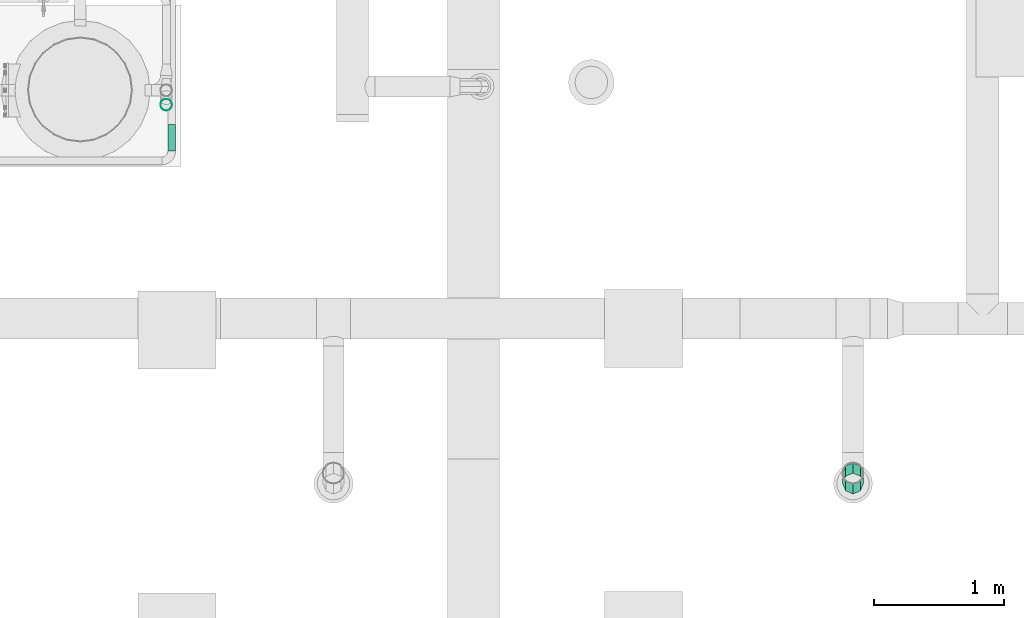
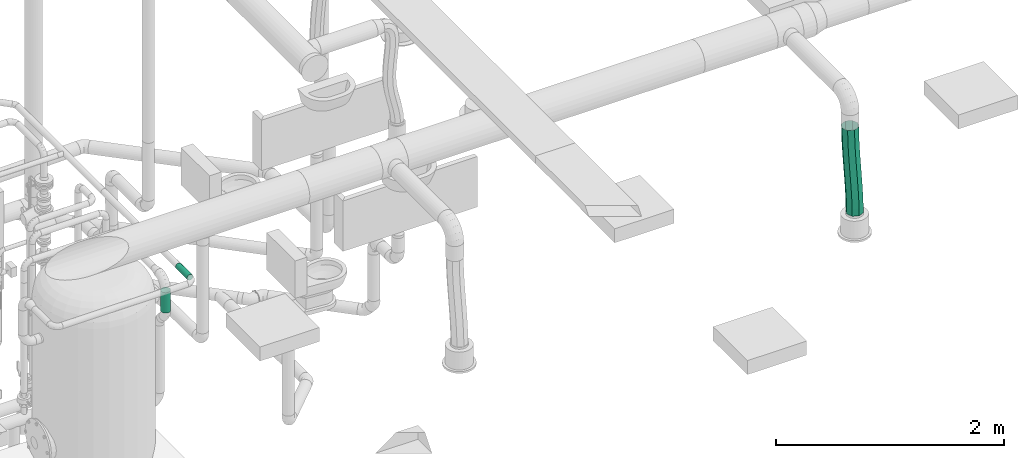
# One storey, part 261 of 374: 3 flow segments.
"""IFC2X3 building model written with IfcOpenShell, lengths in metres."""

from ifc_helpers import new_model, si_unit, direction, origin, place, context, subcontext, project, spatial, open_shell, surface_model, source, transform, mapped, element, save


model = new_model("IFC2X3")

# Units and contexts
model_context = context("Model", 3, precision=1e-05, world=origin(), true_north=direction((-0.4480736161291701, 0.8939966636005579)))
body_context = subcontext(model_context, "Body", "Model", "MODEL_VIEW")
ifc_project = project(units=[si_unit("LENGTHUNIT", "METRE"), si_unit("AREAUNIT", "SQUARE_METRE"), si_unit("VOLUMEUNIT", "CUBIC_METRE"), si_unit("PLANEANGLEUNIT", "RADIAN"), si_unit("THERMODYNAMICTEMPERATUREUNIT", "KELVIN"), si_unit("MASSUNIT", "GRAM", prefix="KILO"), si_unit("TIMEUNIT", "SECOND")], contexts=[model_context])

# Site, building, storey
site_placement = place(None, origin())
site = spatial("IfcSite", under=ifc_project, at=site_placement, Name="Site 1", CompositionType="ELEMENT")
building_placement = place(site_placement, origin())
building = spatial("IfcBuilding", under=site, at=building_placement, Name="Undefined", CompositionType="ELEMENT")
storey_placement = place(building_placement, origin())
storey = spatial("IfcBuildingStorey", under=building, at=storey_placement, Name="Rez de chauss\x8ee", CompositionType="ELEMENT", Elevation=0.0)

# Flow segments
shared_shape_1 = source(origin(), body_context, "Body", "SurfaceModel", [
    surface_model("IfcFaceBasedSurfaceModel", [(0.09591138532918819, -3.552713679e-15, 0.0), (0.057778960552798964, 0.04790565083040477, 0.0), (0.0, 0.0, 0.0), (0.0399085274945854, -0.04643643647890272, -1.0803251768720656e-06), (-0.05576709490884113, -0.049661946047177, -0.0010921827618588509), (-0.01440323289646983, -0.09480686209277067, -0.0010661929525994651), (-0.10982705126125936, -0.10061373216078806, -0.003047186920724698), (-0.06736211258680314, -0.14472447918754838, -0.0029825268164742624), (-0.1625398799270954, -0.1524448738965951, -0.0056388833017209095), (-0.11930632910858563, -0.19580249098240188, -0.0055372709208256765), (-0.21426131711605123, -0.20475370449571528, -0.00864508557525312), (-0.17057409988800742, -0.24765410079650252, -0.00851761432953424), (-0.26534080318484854, -0.2571453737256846, -0.011847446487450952), (-0.22150364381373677, -0.2998925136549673, -0.01171074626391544), (-0.3161204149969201, -0.30923055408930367, -0.015031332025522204), (-0.2724331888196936, -0.35213094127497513, -0.01490386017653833), (-0.36693452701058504, -0.36062498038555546, -0.017985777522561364), (-0.32370096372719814, -0.40398258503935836, -0.01788416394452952), (-0.41811014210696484, -0.4109499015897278, -0.020503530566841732), (-0.37564519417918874, -0.45506063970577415, -0.020438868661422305), (-0.4699679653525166, -0.4598333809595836, -0.02238117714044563), (-0.42860410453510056, -0.5049782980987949, -0.0223551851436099), (-0.5228244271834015, -0.5069122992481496, -0.023419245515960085), (-0.4829159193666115, -0.5533487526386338, -0.02342032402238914), (-0.5770512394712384, -0.5518795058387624, -0.0234214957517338), (-0.5389188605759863, -0.5997851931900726, -0.02342149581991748), (0.030535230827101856, 0.08155715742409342, -0.04329420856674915), (-0.027979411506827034, 0.033042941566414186, -0.04329376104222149), (-0.0843493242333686, -0.017153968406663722, -0.044397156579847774), (-0.13886536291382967, -0.06853412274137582, -0.04636817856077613), (-0.19189656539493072, -0.12067722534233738, -0.0489751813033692), (-0.2438059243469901, -0.1731754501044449, -0.05199209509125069), (-0.29494752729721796, -0.22563060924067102, -0.05519827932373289), (-0.3456650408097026, -0.27765231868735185, -0.05837834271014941), (-0.3962912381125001, -0.32885735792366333, -0.061322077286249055), (-0.4471484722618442, -0.3788703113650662, -0.06382452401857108), (-0.4985501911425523, -0.4273254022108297, -0.06568615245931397), (-0.5508037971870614, -0.4738693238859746, -0.06671300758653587), (-0.6042948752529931, -0.5182279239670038, -0.06671570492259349), (0.030139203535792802, 0.08124192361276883, -0.10452146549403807), (-0.02763974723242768, 0.033336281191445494, -0.10452146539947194), (-0.08340683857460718, -0.016325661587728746, -0.10561364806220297), (-0.13746679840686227, -0.06727745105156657, -0.1075686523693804), (-0.19017963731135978, -0.11910860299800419, -0.11016034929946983), (-0.2419010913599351, -0.17141745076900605, -0.11316655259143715), (-0.2929805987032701, -0.22380914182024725, -0.11636891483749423), (-0.34376022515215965, -0.2758943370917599, -0.11955280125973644), (-0.3945743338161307, -0.32728876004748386, -0.12250724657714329), (-0.4457499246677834, -0.37761365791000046, -0.12502499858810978), (-0.4976077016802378, -0.42649709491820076, -0.12690264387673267), (-0.5504640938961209, -0.4735759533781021, -0.12794071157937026), (-0.6046908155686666, -0.5185430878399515, -0.1279429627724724), (0.05682286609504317, 0.04714460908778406, -0.1478156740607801), (0.0008200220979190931, 0.0007081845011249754, -0.14781675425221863), (-0.053491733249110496, -0.04766223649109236, -0.14888186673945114), (-0.1064506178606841, -0.097579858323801, -0.15079820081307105), (-0.15839484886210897, -0.14865788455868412, -0.1533529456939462), (-0.20966264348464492, -0.20050951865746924, -0.1563332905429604), (-0.2605922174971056, -0.25274796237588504, -0.15952642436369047), (-0.3115217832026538, -0.3049864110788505, -0.16271953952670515), (-0.3627895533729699, -0.35683805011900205, -0.165699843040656), (-0.41473374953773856, -0.4079160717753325, -0.16825454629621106), (-0.46769259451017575, -0.45783367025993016, -0.1701708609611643), (-0.5220043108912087, -0.5062040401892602, -0.17123599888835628), (-0.5780071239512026, -0.5526403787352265, -0.17123717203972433), (0.09495529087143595, -0.0007610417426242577, -0.1478156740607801), (0.04072854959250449, -0.045728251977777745, -0.1478178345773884), (-0.012127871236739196, -0.09280715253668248, -0.14885587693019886), (-0.06398567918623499, -0.14169060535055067, -0.15073354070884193), (-0.1151612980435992, -0.19201550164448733, -0.15325133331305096), (-0.16597542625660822, -0.24340991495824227, -0.15620581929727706), (-0.21675505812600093, -0.2954951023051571, -0.15938972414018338), (-0.26783455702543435, -0.3478867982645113, -0.1625920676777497), (-0.3195559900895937, -0.4001956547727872, -0.16559822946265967), (-0.3722688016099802, -0.4520268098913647, -0.16818988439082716), (-0.4263287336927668, -0.5029785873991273, -0.1701448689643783), (-0.48209580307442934, -0.5526404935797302, -0.17123707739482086), (-0.5398747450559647, -0.6005460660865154, -0.17123717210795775), (0.12219902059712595, -0.03441254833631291, -0.10452146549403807), (0.06870796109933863, -0.07877119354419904, -0.1045240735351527), (0.01645435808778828, -0.1253151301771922, -0.10555090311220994), (-0.03494736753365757, -0.17377021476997, -0.10741254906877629), (-0.08580461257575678, -0.22378315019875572, -0.10991503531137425), (-0.13643081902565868, -0.2749881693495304, -0.11285880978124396), (-0.18714833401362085, -0.32700986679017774, -0.11603889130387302), (-0.2382899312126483, -0.3794650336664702, -0.11924505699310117), (-0.2901992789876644, -0.4319632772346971, -0.12226192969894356), (-0.3432304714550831, -0.48410640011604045, -0.12486889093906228), (-0.39774650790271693, -0.5354865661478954, -0.12683989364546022), (-0.4541164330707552, -0.5856834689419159, -0.12794331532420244), (-0.5126311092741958, -0.6341976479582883, -0.12794296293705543), (0.12259504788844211, -0.03409731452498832, -0.04329420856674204), (0.06836829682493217, -0.07906453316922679, -0.04329636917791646), (0.015511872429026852, -0.12614343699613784, -0.044334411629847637), (-0.03634593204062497, -0.1750268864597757, -0.046212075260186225), (-0.08752154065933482, -0.22535177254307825, -0.04872986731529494), (-0.13833565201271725, -0.27674616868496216, -0.05168435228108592), (-0.18911526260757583, -0.32883133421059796, -0.05486825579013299), (-0.24019474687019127, -0.3812230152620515, -0.058070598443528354), (-0.29191618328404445, -0.4335318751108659, -0.06107676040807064), (-0.34462901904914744, -0.4853630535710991, -0.0636684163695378), (-0.3986889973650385, -0.5363148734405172, -0.06562340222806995), (-0.4544561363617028, -0.5859768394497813, -0.06671561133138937), (-0.5122351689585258, -0.633882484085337, -0.06671570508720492)], [open_shell([[[0, 1, 2]], [[2, 3, 0]], [[3, 2, 4]], [[4, 5, 3]], [[5, 4, 6]], [[6, 7, 5]], [[7, 6, 8]], [[8, 9, 7]], [[9, 8, 10]], [[10, 11, 9]], [[11, 10, 12]], [[12, 13, 11]], [[13, 12, 14]], [[14, 15, 13]], [[15, 14, 16]], [[16, 17, 15]], [[17, 16, 18]], [[18, 19, 17]], [[19, 18, 20]], [[20, 21, 19]], [[21, 20, 22]], [[22, 23, 21]], [[23, 22, 24]], [[24, 25, 23]], [[1, 26, 27]], [[27, 2, 1]], [[2, 27, 28]], [[28, 4, 2]], [[4, 28, 29]], [[29, 6, 4]], [[6, 29, 30]], [[30, 8, 6]], [[8, 30, 31]], [[31, 10, 8]], [[10, 31, 32]], [[32, 12, 10]], [[12, 32, 33]], [[33, 14, 12]], [[14, 33, 34]], [[34, 16, 14]], [[16, 34, 35]], [[35, 18, 16]], [[18, 35, 36]], [[36, 20, 18]], [[20, 36, 37]], [[37, 22, 20]], [[22, 37, 38]], [[38, 24, 22]], [[26, 39, 40]], [[40, 27, 26]], [[27, 40, 41]], [[41, 28, 27]], [[28, 41, 42]], [[42, 29, 28]], [[29, 42, 43]], [[43, 30, 29]], [[30, 43, 44]], [[44, 31, 30]], [[31, 44, 45]], [[45, 32, 31]], [[32, 45, 46]], [[46, 33, 32]], [[33, 46, 47]], [[47, 34, 33]], [[34, 47, 48]], [[48, 35, 34]], [[35, 48, 49]], [[49, 36, 35]], [[36, 49, 50]], [[50, 37, 36]], [[37, 50, 51]], [[51, 38, 37]], [[39, 52, 53]], [[53, 40, 39]], [[40, 53, 54]], [[54, 41, 40]], [[41, 54, 55]], [[55, 42, 41]], [[42, 55, 56]], [[56, 43, 42]], [[43, 56, 57]], [[57, 44, 43]], [[44, 57, 58]], [[58, 45, 44]], [[45, 58, 59]], [[59, 46, 45]], [[46, 59, 60]], [[60, 47, 46]], [[47, 60, 61]], [[61, 48, 47]], [[48, 61, 62]], [[62, 49, 48]], [[49, 62, 63]], [[63, 50, 49]], [[50, 63, 64]], [[64, 51, 50]], [[52, 65, 66]], [[66, 53, 52]], [[53, 66, 67]], [[67, 54, 53]], [[54, 67, 68]], [[68, 55, 54]], [[55, 68, 69]], [[69, 56, 55]], [[56, 69, 70]], [[70, 57, 56]], [[57, 70, 71]], [[71, 58, 57]], [[58, 71, 72]], [[72, 59, 58]], [[59, 72, 73]], [[73, 60, 59]], [[60, 73, 74]], [[74, 61, 60]], [[61, 74, 75]], [[75, 62, 61]], [[62, 75, 76]], [[76, 63, 62]], [[63, 76, 77]], [[77, 64, 63]], [[65, 78, 79]], [[79, 66, 65]], [[66, 79, 80]], [[80, 67, 66]], [[67, 80, 81]], [[81, 68, 67]], [[68, 81, 82]], [[82, 69, 68]], [[69, 82, 83]], [[83, 70, 69]], [[70, 83, 84]], [[84, 71, 70]], [[71, 84, 85]], [[85, 72, 71]], [[72, 85, 86]], [[86, 73, 72]], [[73, 86, 87]], [[87, 74, 73]], [[74, 87, 88]], [[88, 75, 74]], [[75, 88, 89]], [[89, 76, 75]], [[76, 89, 90]], [[90, 77, 76]], [[78, 91, 92]], [[92, 79, 78]], [[79, 92, 93]], [[93, 80, 79]], [[80, 93, 94]], [[94, 81, 80]], [[81, 94, 95]], [[95, 82, 81]], [[82, 95, 96]], [[96, 83, 82]], [[83, 96, 97]], [[97, 84, 83]], [[84, 97, 98]], [[98, 85, 84]], [[85, 98, 99]], [[99, 86, 85]], [[86, 99, 100]], [[100, 87, 86]], [[87, 100, 101]], [[101, 88, 87]], [[88, 101, 102]], [[102, 89, 88]], [[89, 102, 103]], [[103, 90, 89]], [[91, 0, 3]], [[3, 92, 91]], [[92, 3, 5]], [[5, 93, 92]], [[93, 5, 7]], [[7, 94, 93]], [[94, 7, 9]], [[9, 95, 94]], [[95, 9, 11]], [[11, 96, 95]], [[96, 11, 13]], [[13, 97, 96]], [[97, 13, 15]], [[15, 98, 97]], [[98, 15, 17]], [[17, 99, 98]], [[99, 17, 19]], [[19, 100, 99]], [[100, 19, 21]], [[21, 101, 100]], [[101, 21, 23]], [[23, 102, 101]], [[102, 23, 25]], [[25, 103, 102]]])]),
])
flow_segment_1_placement = place(storey_placement, origin())
element("IfcFlowSegment", 1, at=flow_segment_1_placement, inside=storey, Name="Tube flexible", ObjectType="Tube flexible", context=body_context, shape_type="MappedRepresentation", body=[
    mapped(shared_shape_1, transform((60.23343534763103, 7.089946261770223, 3.404961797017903), x_axis=(-0.2443032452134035, -0.5728986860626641, 0.782370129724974), y_axis=(0.29465380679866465, 0.7248106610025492, 0.6227588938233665), z_axis=(-0.9238479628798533, 0.3826703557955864, -0.00826681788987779))),
])
shared_shape_2 = source(origin(), body_context, "Body", "SurfaceModel", [
    surface_model("IfcFaceBasedSurfaceModel", [(0.0, 0.011603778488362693, 2.22044605e-16), (0.0, 0.0, 0.0), (0.21824538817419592, -1.776356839e-15, 7.105427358e-15), (0.21824538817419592, 0.011603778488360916, 0.0), (0.0, -0.01120838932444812, -0.003003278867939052), (0.21824538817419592, -0.011208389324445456, -0.0030032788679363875), (0.0, -0.021257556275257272, -0.008805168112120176), (0.21824538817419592, -0.021257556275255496, -0.008805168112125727), (0.0, -0.029462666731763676, -0.017010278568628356), (0.21824538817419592, -0.029462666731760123, -0.017010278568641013), (0.0, -0.035264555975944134, -0.02705944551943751), (0.21824538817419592, -0.035264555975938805, -0.02705944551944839), (0.0, -0.03826783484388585, -0.038267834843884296), (0.21824538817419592, -0.038267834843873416, -0.038267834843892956), (0.0, -0.038267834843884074, -0.04987161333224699), (0.21824538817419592, -0.03826783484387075, -0.04987161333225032), (0.0, -0.03526455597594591, -0.06108000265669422), (0.21824538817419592, -0.03526455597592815, -0.0610800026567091), (0.0, -0.029462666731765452, -0.07112916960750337), (0.21824538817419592, -0.029462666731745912, -0.07112916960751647), (0.0, -0.021257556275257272, -0.07933428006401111), (0.21824538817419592, -0.02125755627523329, -0.07933428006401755), (0.0, -0.011208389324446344, -0.08513616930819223), (0.21824538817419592, -0.01120838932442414, -0.08513616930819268), (0.0, 0.0, -0.08813944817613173), (0.21824538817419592, 2.4868995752e-14, -0.08813944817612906), (0.0, 0.011603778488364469, -0.08813944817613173), (0.21824538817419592, 0.01160377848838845, -0.08813944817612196), (0.0, 0.022812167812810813, -0.08513616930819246), (0.21824538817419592, 0.022812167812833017, -0.08513616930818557), (0.0, 0.03286133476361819, -0.07933428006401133), (0.21824538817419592, 0.03286133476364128, -0.07933428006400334), (0.0, 0.04106644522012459, -0.07112916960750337), (0.21824538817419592, 0.041066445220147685, -0.07112916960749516), (0.0, 0.0468683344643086, -0.06108000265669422), (0.21824538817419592, 0.04686833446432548, -0.06108000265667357), (0.0, 0.04987161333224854, -0.04987161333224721), (0.21824538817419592, 0.04987161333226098, -0.049871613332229), (0.0, 0.04987161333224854, -0.03826783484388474), (0.21824538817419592, 0.049871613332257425, -0.03826783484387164), (0.0, 0.04686833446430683, -0.02705944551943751), (0.21824538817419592, 0.04686833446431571, -0.027059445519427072), (0.0, 0.04106644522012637, -0.017010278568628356), (0.21824538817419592, 0.0410664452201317, -0.01701027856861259), (0.0, 0.032861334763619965, -0.00880516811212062), (0.21824538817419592, 0.03286133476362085, -0.008805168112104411), (0.0, 0.022812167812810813, -0.003003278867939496), (0.21824538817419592, 0.022812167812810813, -0.003003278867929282)], [open_shell([[[0, 1, 2, 3]], [[1, 4, 5, 2]], [[4, 6, 7, 5]], [[6, 8, 9, 7]], [[8, 10, 11, 9]], [[10, 12, 13, 11]], [[12, 14, 15, 13]], [[14, 16, 17, 15]], [[16, 18, 19, 17]], [[18, 20, 21, 19]], [[20, 22, 23, 21]], [[22, 24, 25, 23]], [[24, 26, 27, 25]], [[26, 28, 29, 27]], [[28, 30, 31, 29]], [[30, 32, 33, 31]], [[32, 34, 35, 33]], [[34, 36, 37, 35]], [[36, 38, 39, 37]], [[38, 40, 41, 39]], [[40, 42, 43, 41]], [[42, 44, 45, 43]], [[44, 46, 47, 45]], [[46, 0, 3, 47]]])]),
])
flow_segment_2_placement = place(storey_placement, origin())
element("IfcFlowSegment", 2, at=flow_segment_2_placement, inside=storey, Name="Tube acier d'après DIN 2448", ObjectType="Tube acier d'après DIN 2448", context=body_context, shape_type="MappedRepresentation", body=[
    mapped(shared_shape_2, transform((55.045765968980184, 9.883503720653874, 1.6333463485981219), x_axis=(0.0, 0.0, 1.0), y_axis=(0.13052619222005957, -0.9914448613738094, 0.0), z_axis=(0.9914448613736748, 0.13052619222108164, 0.0))),
])
shared_shape_3 = source(origin(), body_context, "Body", "SurfaceModel", [
    surface_model("IfcFaceBasedSurfaceModel", [(0.0, 0.007870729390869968, 7.105427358e-15), (0.0, 0.0, 0.0), (0.20352872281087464, 0.0, 0.0), (0.20352872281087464, 0.007870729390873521, 0.0), (0.0, -0.00760254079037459, -0.0020370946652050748), (0.20352872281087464, -0.007602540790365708, -0.0020370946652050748), (0.0, -0.01441879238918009, -0.00597245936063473), (0.20352872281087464, -0.014418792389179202, -0.005972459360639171), (0.0, -0.019984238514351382, -0.011537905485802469), (0.20352872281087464, -0.019984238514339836, -0.011537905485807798), (0.0, -0.023919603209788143, -0.018354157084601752), (0.20352872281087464, -0.023919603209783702, -0.01835415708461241), (0.0, -0.025956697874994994, -0.025956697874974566), (0.20352872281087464, -0.02595669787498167, -0.025956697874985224), (0.0, -0.025956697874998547, -0.03382742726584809), (0.20352872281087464, -0.025956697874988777, -0.033827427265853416), (0.0, -0.02391960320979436, -0.041429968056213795), (0.20352872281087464, -0.023919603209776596, -0.04142996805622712), (0.0, -0.019984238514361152, -0.04824621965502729), (0.20352872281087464, -0.01998423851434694, -0.04824621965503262), (0.0, -0.01441879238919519, -0.05381166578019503), (0.20352872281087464, -0.014418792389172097, -0.05381166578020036), (0.0, -0.007602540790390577, -0.05774703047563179), (0.20352872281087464, -0.007602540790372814, -0.05774703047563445), (0.0, -1.7763568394e-14, -0.05978412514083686), (0.20352872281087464, 0.0, -0.059784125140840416), (0.0, 0.007870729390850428, -0.05978412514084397), (0.20352872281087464, 0.007870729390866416, -0.05978412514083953), (0.0, 0.015473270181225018, -0.057747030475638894), (0.20352872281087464, 0.01547327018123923, -0.05774703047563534), (0.0, 0.022289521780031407, -0.05381166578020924), (0.20352872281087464, 0.022289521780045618, -0.05381166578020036), (0.0, 0.027854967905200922, -0.048246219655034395), (0.20352872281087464, 0.027854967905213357, -0.048246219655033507), (0.0, 0.031790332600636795, -0.04142996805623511), (0.20352872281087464, 0.03179033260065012, -0.041429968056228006), (0.0, 0.033827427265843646, -0.0338274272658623), (0.20352872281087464, 0.03382742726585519, -0.03382742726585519), (0.0, 0.0338274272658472, -0.025956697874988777), (0.20352872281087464, 0.03382742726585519, -0.025956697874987), (0.0, 0.0317903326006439, -0.01835415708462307), (0.20352872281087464, 0.03179033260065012, -0.018354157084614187), (0.0, 0.02785496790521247, -0.01153790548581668), (0.20352872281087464, 0.027854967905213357, -0.011537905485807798), (0.0, 0.022289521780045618, -0.005972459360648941), (0.20352872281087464, 0.022289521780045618, -0.005972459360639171), (0.0, 0.015473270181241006, -0.0020370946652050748), (0.20352872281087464, 0.01547327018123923, -0.0020370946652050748)], [open_shell([[[0, 1, 2, 3]], [[1, 4, 5, 2]], [[4, 6, 7, 5]], [[6, 8, 9, 7]], [[8, 10, 11, 9]], [[10, 12, 13, 11]], [[12, 14, 15, 13]], [[14, 16, 17, 15]], [[16, 18, 19, 17]], [[18, 20, 21, 19]], [[20, 22, 23, 21]], [[22, 24, 25, 23]], [[24, 26, 27, 25]], [[26, 28, 29, 27]], [[28, 30, 31, 29]], [[30, 32, 33, 31]], [[32, 34, 35, 33]], [[34, 36, 37, 35]], [[36, 38, 39, 37]], [[38, 40, 41, 39]], [[40, 42, 43, 41]], [[42, 44, 45, 43]], [[44, 46, 47, 45]], [[46, 0, 3, 47]]])]),
])
flow_segment_3_placement = place(storey_placement, origin())
element("IfcFlowSegment", 3, at=flow_segment_3_placement, inside=storey, Name="Tube acier d'après DIN 2448", ObjectType="Tube acier d'après DIN 2448", context=body_context, shape_type="MappedRepresentation", body=[
    mapped(shared_shape_3, transform((55.03628549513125, 9.719086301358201, 2.2171226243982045), x_axis=(0.0, -1.0, 0.0), y_axis=(0.9914448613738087, 0.0, 0.13052619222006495), z_axis=(-0.13052619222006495, 0.0, 0.9914448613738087))),
])

save(model, "model.ifc")
